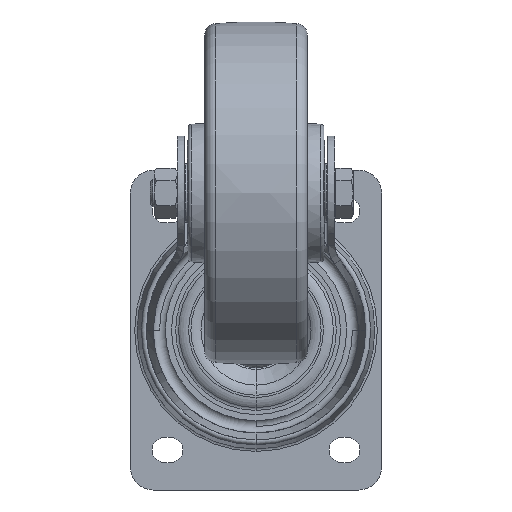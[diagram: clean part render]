
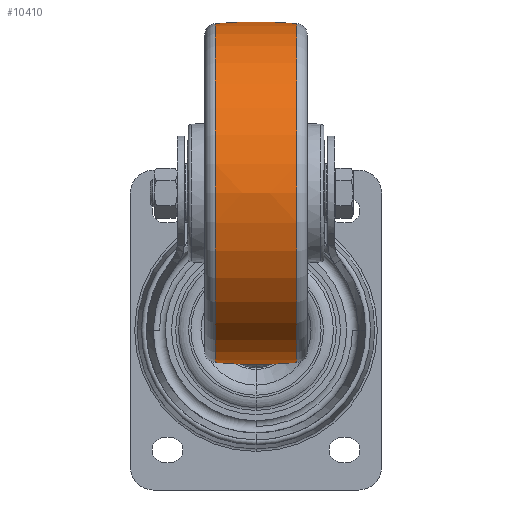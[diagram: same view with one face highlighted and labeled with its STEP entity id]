
A CAD part, front view. The second image highlights one B-rep face of the part: STEP entity #10410.
In plain terms, the highlighted free-form (B-spline) face has degree [3, 3] with [7, 4] control points.
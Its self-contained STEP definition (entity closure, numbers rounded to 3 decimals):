
#643 = DIRECTION ( 'NONE',  ( -1., 0., 0. ) ) ;
#2630 = AXIS2_PLACEMENT_3D ( 'NONE', #46728, #21989, #57512 ) ;
#2967 = CARTESIAN_POINT ( 'NONE',  ( 18.665, 73.981, -4.654 ) ) ;
#4389 = DIRECTION ( 'NONE',  ( 0., 0., 1. ) ) ;
#4484 = CARTESIAN_POINT ( 'NONE',  ( -6.24, -78.053, 41.515 ) ) ;
#5146 = CARTESIAN_POINT ( 'NONE',  ( 6.24, -46.334, 75.292 ) ) ;
#5438 = DIRECTION ( 'NONE',  ( 0.09, -0.996, 0. ) ) ;
#6593 = ORIENTED_EDGE ( 'NONE', *, *, #60953, .T. ) ;
#6900 = CARTESIAN_POINT ( 'NONE',  ( -18.665, -45.618, 74.127 ) ) ;
#7307 = EDGE_LOOP ( 'NONE', ( #6593, #8651, #44908, #20240 ) ) ;
#8222 = CARTESIAN_POINT ( 'NONE',  ( -6.24, 46.334, 75.292 ) ) ;
#8518 = CARTESIAN_POINT ( 'NONE',  ( 6.24, 75.143, -4.728 ) ) ;
#8651 = ORIENTED_EDGE ( 'NONE', *, *, #40766, .T. ) ;
#9022 = AXIS2_PLACEMENT_3D ( 'NONE', #30978, #643, #41149 ) ;
#9375 = CARTESIAN_POINT ( 'NONE',  ( 18.665, -76.845, 40.873 ) ) ;
#9912 = DIRECTION ( 'NONE',  ( 0.09, 0.996, 0. ) ) ;
#10236 = CARTESIAN_POINT ( 'NONE',  ( -6.24, -46.334, 75.292 ) ) ;
#10386 = VERTEX_POINT ( 'NONE', #47678 ) ;
#10410 = ADVANCED_FACE ( 'NONE', ( #62235 ), #65601, .T. ) ;
#10602 = CARTESIAN_POINT ( 'NONE',  ( 17.949, -74.193, 0. ) ) ;
#11976 = CARTESIAN_POINT ( 'NONE',  ( 6.24, 0., 75.292 ) ) ;
#13589 = CARTESIAN_POINT ( 'NONE',  ( -6.24, 75.143, -4.728 ) ) ;
#13668 = CIRCLE ( 'NONE', #14156, 200. ) ;
#14156 = AXIS2_PLACEMENT_3D ( 'NONE', #44400, #4389, #9912 ) ;
#14875 = VERTEX_POINT ( 'NONE', #10602 ) ;
#19810 = CARTESIAN_POINT ( 'NONE',  ( 17.949, 74.193, 0. ) ) ;
#20240 = ORIENTED_EDGE ( 'NONE', *, *, #22786, .F. ) ;
#20921 = CARTESIAN_POINT ( 'NONE',  ( -17.949, 74.193, 0. ) ) ;
#21989 = DIRECTION ( 'NONE',  ( -1., 0., 0. ) ) ;
#22786 = EDGE_CURVE ( 'NONE', #14875, #10386, #41491, .T. ) ;
#22936 = CARTESIAN_POINT ( 'NONE',  ( 6.24, -75.143, -4.728 ) ) ;
#25451 = CARTESIAN_POINT ( 'NONE',  ( 6.24, 46.334, 75.292 ) ) ;
#28639 = CARTESIAN_POINT ( 'NONE',  ( -6.24, 78.053, 41.515 ) ) ;
#28888 = CARTESIAN_POINT ( 'NONE',  ( 18.665, -73.981, -4.654 ) ) ;
#29671 = VERTEX_POINT ( 'NONE', #19810 ) ;
#29958 = CIRCLE ( 'NONE', #9022, 74.193 ) ;
#30624 = DIRECTION ( 'NONE',  ( 0., 0., -1. ) ) ;
#30978 = CARTESIAN_POINT ( 'NONE',  ( 17.949, 0., 0. ) ) ;
#36577 = EDGE_CURVE ( 'NONE', #10386, #46829, #42396, .T. ) ;
#37323 = CARTESIAN_POINT ( 'NONE',  ( -18.665, 73.981, -4.654 ) ) ;
#38698 = CARTESIAN_POINT ( 'NONE',  ( 18.665, 76.845, 40.873 ) ) ;
#39562 = CARTESIAN_POINT ( 'NONE',  ( 18.665, 45.618, 74.127 ) ) ;
#40766 = EDGE_CURVE ( 'NONE', #29671, #46829, #13668, .T. ) ;
#41070 = AXIS2_PLACEMENT_3D ( 'NONE', #55779, #30624, #5438 ) ;
#41149 = DIRECTION ( 'NONE',  ( 0., -1., 0. ) ) ;
#41491 = CIRCLE ( 'NONE', #41070, 200. ) ;
#42229 = CARTESIAN_POINT ( 'NONE',  ( 18.665, 0., 74.127 ) ) ;
#42396 = CIRCLE ( 'NONE', #2630, 74.193 ) ;
#43438 = CARTESIAN_POINT ( 'NONE',  ( 6.24, 78.053, 41.515 ) ) ;
#43590 = CARTESIAN_POINT ( 'NONE',  ( -18.665, 45.618, 74.127 ) ) ;
#44095 = CARTESIAN_POINT ( 'NONE',  ( -18.665, 76.845, 40.873 ) ) ;
#44400 = CARTESIAN_POINT ( 'NONE',  ( 0., -125., 0. ) ) ;
#44908 = ORIENTED_EDGE ( 'NONE', *, *, #36577, .F. ) ;
#46728 = CARTESIAN_POINT ( 'NONE',  ( -17.949, 0., 0. ) ) ;
#46829 = VERTEX_POINT ( 'NONE', #20921 ) ;
#47678 = CARTESIAN_POINT ( 'NONE',  ( -17.949, -74.193, 0. ) ) ;
#49269 = CARTESIAN_POINT ( 'NONE',  ( -18.665, 0., 74.127 ) ) ;
#53327 = CARTESIAN_POINT ( 'NONE',  ( -6.24, -75.143, -4.728 ) ) ;
#54619 = CARTESIAN_POINT ( 'NONE',  ( -18.665, -73.981, -4.654 ) ) ;
#55779 = CARTESIAN_POINT ( 'NONE',  ( 0., 125., 0. ) ) ;
#57469 = CARTESIAN_POINT ( 'NONE',  ( -6.24, 0., 75.292 ) ) ;
#57512 = DIRECTION ( 'NONE',  ( 0., -1., 0. ) ) ;
#60591 = CARTESIAN_POINT ( 'NONE',  ( 18.665, -45.618, 74.127 ) ) ;
#60953 = EDGE_CURVE ( 'NONE', #14875, #29671, #29958, .T. ) ;
#61252 = CARTESIAN_POINT ( 'NONE',  ( -18.665, -76.845, 40.873 ) ) ;
#62235 = FACE_OUTER_BOUND ( 'NONE', #7307, .T. ) ;
#65041 = CARTESIAN_POINT ( 'NONE',  ( 6.24, -78.053, 41.515 ) ) ;
#65601 =( BOUNDED_SURFACE ( )  B_SPLINE_SURFACE ( 3, 3, ( 
 ( #28888, #22936, #53327, #54619 ),
 ( #9375, #65041, #4484, #61252 ),
 ( #60591, #5146, #10236, #6900 ),
 ( #42229, #11976, #57469, #49269 ),
 ( #39562, #25451, #8222, #43590 ),
 ( #38698, #43438, #28639, #44095 ),
 ( #2967, #8518, #13589, #37323 ) ),
 .UNSPECIFIED., .F., .F., .T. ) 
 B_SPLINE_SURFACE_WITH_KNOTS ( ( 4, 3, 4 ),
 ( 4, 4 ),
 ( 0., 1., 2. ),
 ( 0., 1. ),
 .UNSPECIFIED. ) 
 GEOMETRIC_REPRESENTATION_ITEM ( )  RATIONAL_B_SPLINE_SURFACE ( (
 ( 1.19, 1.186, 1.186, 1.19),
 ( 0.94, 0.937, 0.937, 0.94),
 ( 0.94, 0.937, 0.937, 0.94),
 ( 1.19, 1.186, 1.186, 1.19),
 ( 0.94, 0.937, 0.937, 0.94),
 ( 0.94, 0.937, 0.937, 0.94),
 ( 1.19, 1.186, 1.186, 1.19) ) ) 
 REPRESENTATION_ITEM ( '' )  SURFACE ( )  );
